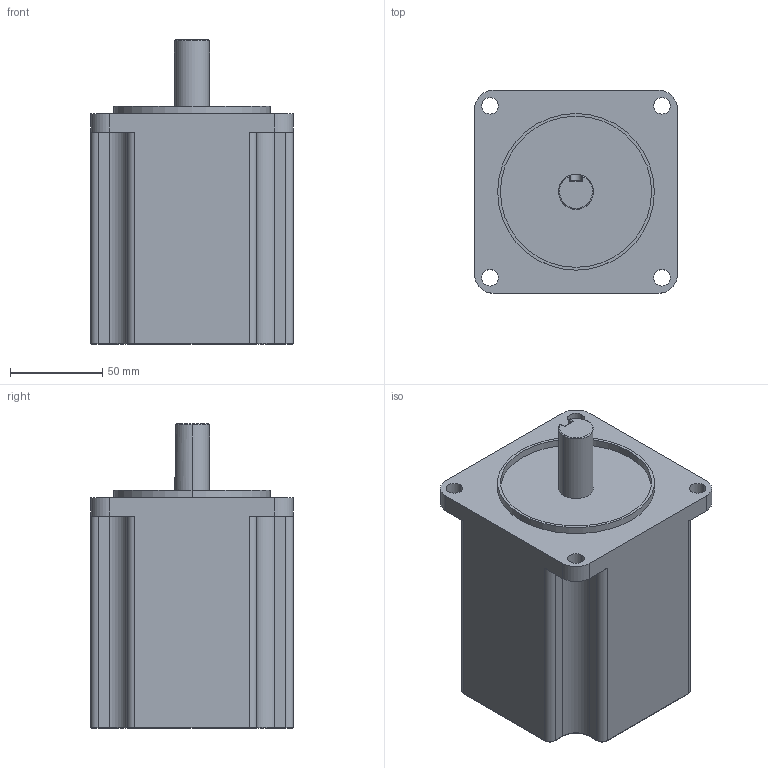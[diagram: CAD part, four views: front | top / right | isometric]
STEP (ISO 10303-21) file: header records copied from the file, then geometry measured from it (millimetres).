
FILE_DESCRIPTION (( 'STEP AP203' ), '1' );
FILE_NAME ('TM4201C40A.STEP', '2019-04-28T06:15:31', ( 'User' ), ( 'www.dadighost.com' ), 'SwSTEP 2.0', 'SolidWorks 2014', '' );
FILE_SCHEMA (( 'CONFIG_CONTROL_DESIGN' ));
Length unit declared in the file: millimetre
Products named in the file (1): TM4201C40A
Bounding box: 110 x 110 x 165 mm (x, y, z)
Volume: 1344110.5 mm3; surface area: 80479.4 mm2
Topology: 1 solids, 1 shells, 85 faces, 210 edges, 130 vertices
Faces by surface type: cylinder 46, plane 24, torus 15
Entity records: 2659 total; most frequent: DIRECTION 480, CARTESIAN_POINT 477, ORIENTED_EDGE 420, EDGE_CURVE 210, AXIS2_PLACEMENT_3D 189, VERTEX_POINT 130, CIRCLE 103, LINE 102
